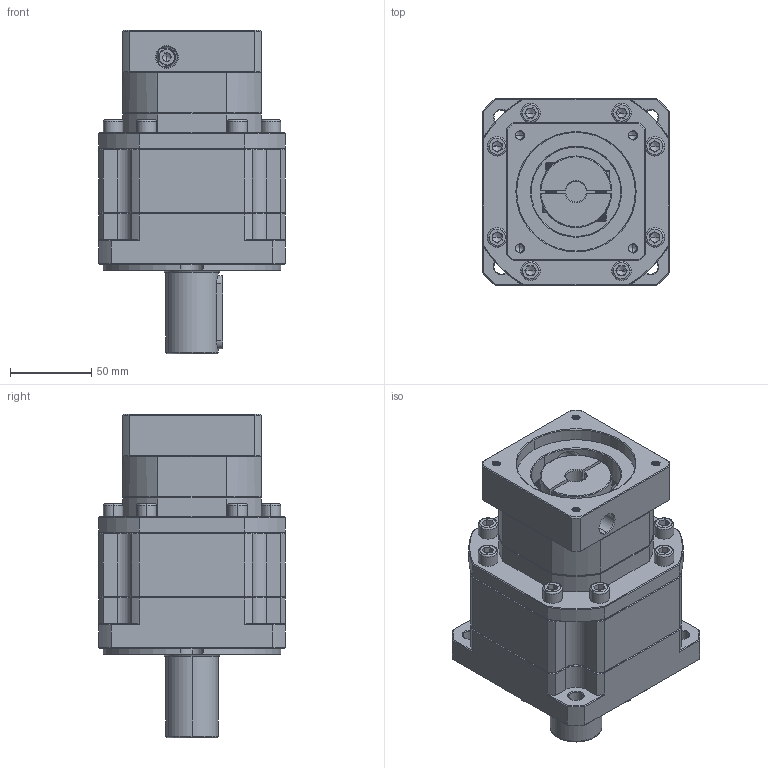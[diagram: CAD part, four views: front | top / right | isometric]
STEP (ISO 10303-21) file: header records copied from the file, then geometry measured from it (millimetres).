
FILE_DESCRIPTION (( 'STEP AP214' ), '1' );
FILE_NAME ('ZB115A-D32-L2-P2-12.7-73-69.6X69.6-M6.step', '2023-08-26T10:01:07', ( '' ), ( '' ), 'SwSTEP 2.0', 'SolidWorks 2016', '' );
FILE_SCHEMA (( 'AUTOMOTIVE_DESIGN' ));
Length unit declared in the file: millimetre
Products named in the file (1): ZB115A-D32-L2-P2-12.7-73-69.6X69.6-M6
Bounding box: 115 x 115 x 199 mm (x, y, z)
Volume: 1376657.6 mm3; surface area: 134550.7 mm2
Topology: 5 solids, 6 shells, 2410 faces, 6320 edges, 4012 vertices
Faces by surface type: plane 1186, bspline 427, cylinder 425, cone 357, torus 15
Entity records: 128447 total; most frequent: CARTESIAN_POINT 46212, ORIENTED_EDGE 12564, DIRECTION 9947, EDGE_CURVE 6282, LINE 4041, VECTOR 4041, VERTEX_POINT 4012, AXIS2_PLACEMENT_3D 2953
